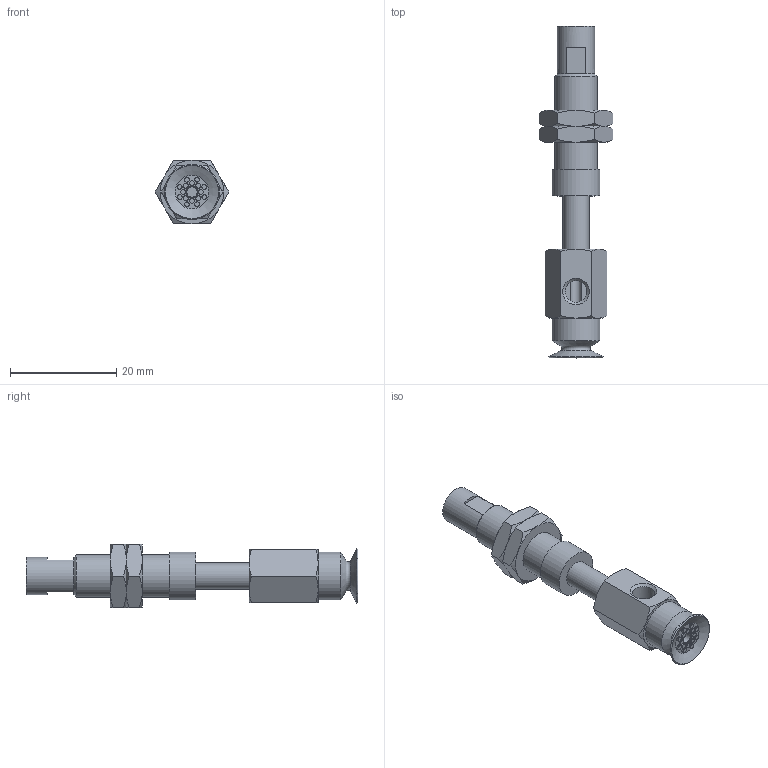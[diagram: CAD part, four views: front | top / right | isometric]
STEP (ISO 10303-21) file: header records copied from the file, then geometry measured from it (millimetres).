
FILE_DESCRIPTION(('STEP AP203'),'1');
FILE_NAME('.stp','2025-02-11T06:05:08',(' '),(' '),'Spatial InterOp 3D',' ',' ');
FILE_SCHEMA(('CONFIG_CONTROL_DESIGN'));
Length unit declared in the file: millimetre
Products named in the file (6): BNABPAYS-10A-10-※; NAPAYS-10A-10--M; NAPAYS-10A-10--F; Nut-10A-S; CONNECTOR-10A-10-PA; BPAG-10A-※_3D
Assembly tree (6 placements, depth 2):
  BNABPAYS-10A-10-※
    NAPAYS-10A-10--M
    NAPAYS-10A-10--F
    Nut-10A-S  x2
    CONNECTOR-10A-10-PA
    BPAG-10A-※_3D
Bounding box: 13.86 x 62.5 x 12 mm (x, y, z)
Volume: 3495.8 mm3; surface area: 4224.5 mm2
Topology: 6 solids, 6 shells, 161 faces, 319 edges, 195 vertices
Faces by surface type: plane 67, cone 51, cylinder 33, torus 10
Full cylindrical faces by diameter (mm): 0.9 x16, 2 x2, 4 x2, 4.134 x2, 5 x3, 6 x2, 7 x1, 7.188 x2, 8 x1, 9 x2
Entity records: 3748 total; most frequent: CARTESIAN_POINT 861, DIRECTION 560, ORIENTED_EDGE 418, AXIS2_PLACEMENT_3D 260, EDGE_LOOP 226, EDGE_CURVE 209, FACE_OUTER_BOUND 180, VERTEX_POINT 159
